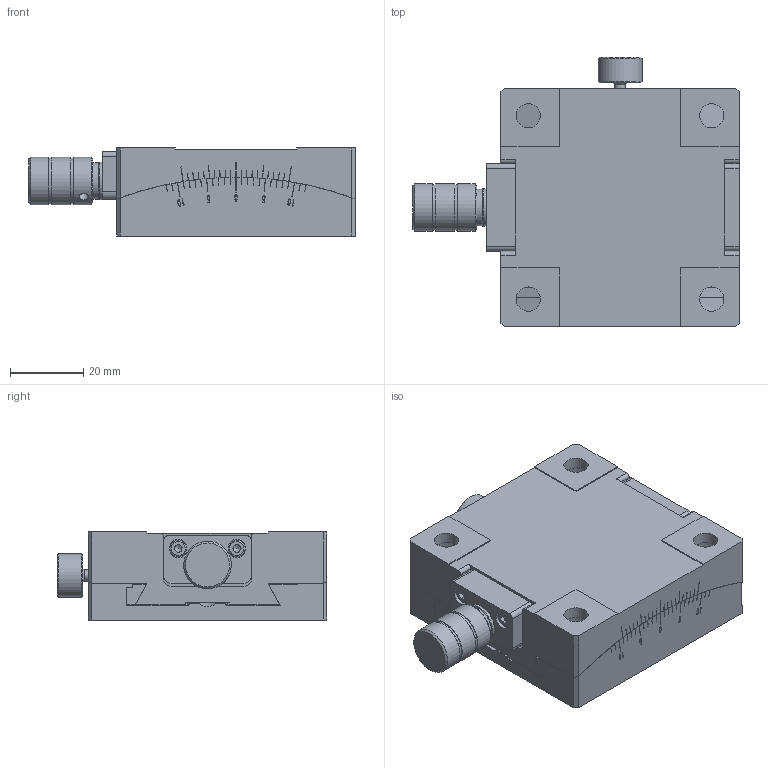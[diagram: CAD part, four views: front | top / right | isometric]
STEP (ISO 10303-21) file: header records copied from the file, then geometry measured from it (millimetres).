
FILE_DESCRIPTION (( 'STEP AP203' ), '1' );
FILE_NAME ('BFSG65-76.STEP', '2024-07-30T13:05:08', ( 'Windows User' ), ( 'P R C' ), 'SwSTEP 2.0', 'SolidWorks 2024', '' );
FILE_SCHEMA (( 'CONFIG_CONTROL_DESIGN' ));
Length unit declared in the file: millimetre
Products named in the file (1): BFSG65-76
Bounding box: 89 x 73.44 x 24 mm (x, y, z)
Volume: 91185.5 mm3; surface area: 39056.3 mm2
Topology: 14 solids, 14 shells, 670 faces, 1816 edges, 1207 vertices
Faces by surface type: plane 427, cylinder 117, bspline 69, cone 39, torus 18
Full cylindrical faces by diameter (mm): 2.05 x4, 2.2 x1, 2.5 x10, 3 x1, 3.3 x4, 4 x6, 4.5 x4, 5 x7, 6 x2, 6.6 x4, 7 x1, 9 x5, 10 x1, 10.3 x2, 11 x4, 12 x1, 12.5 x2, 13 x3
Entity records: 36121 total; most frequent: CARTESIAN_POINT 20205, ORIENTED_EDGE 3348, DIRECTION 2948, EDGE_CURVE 1674, VERTEX_POINT 1172, VECTOR 994, LINE 994, AXIS2_PLACEMENT_3D 977
